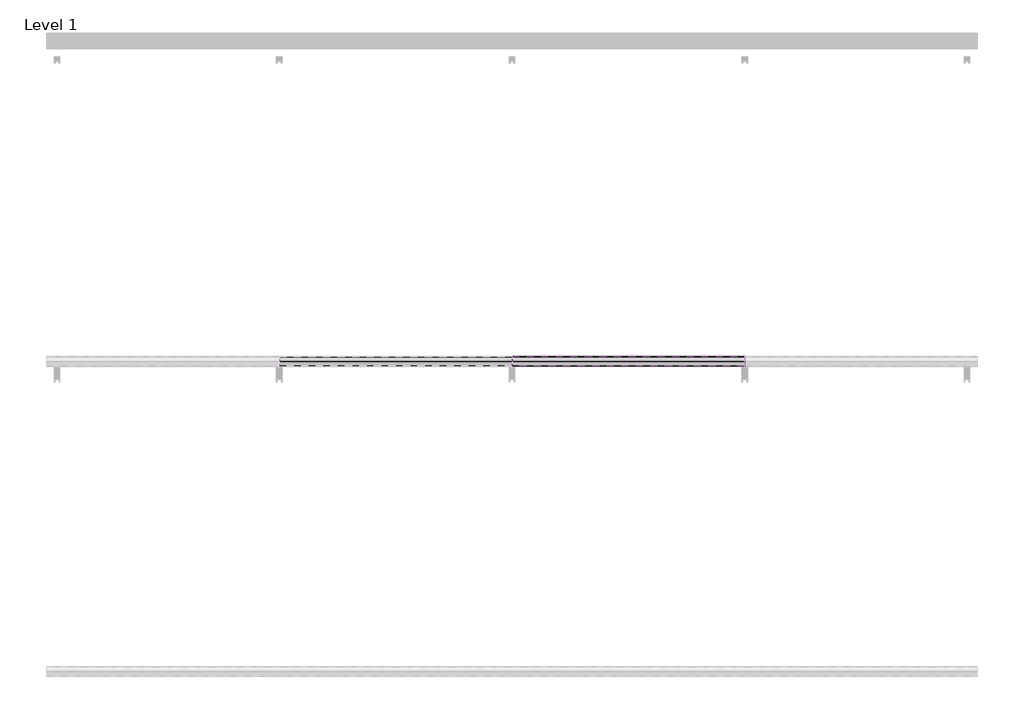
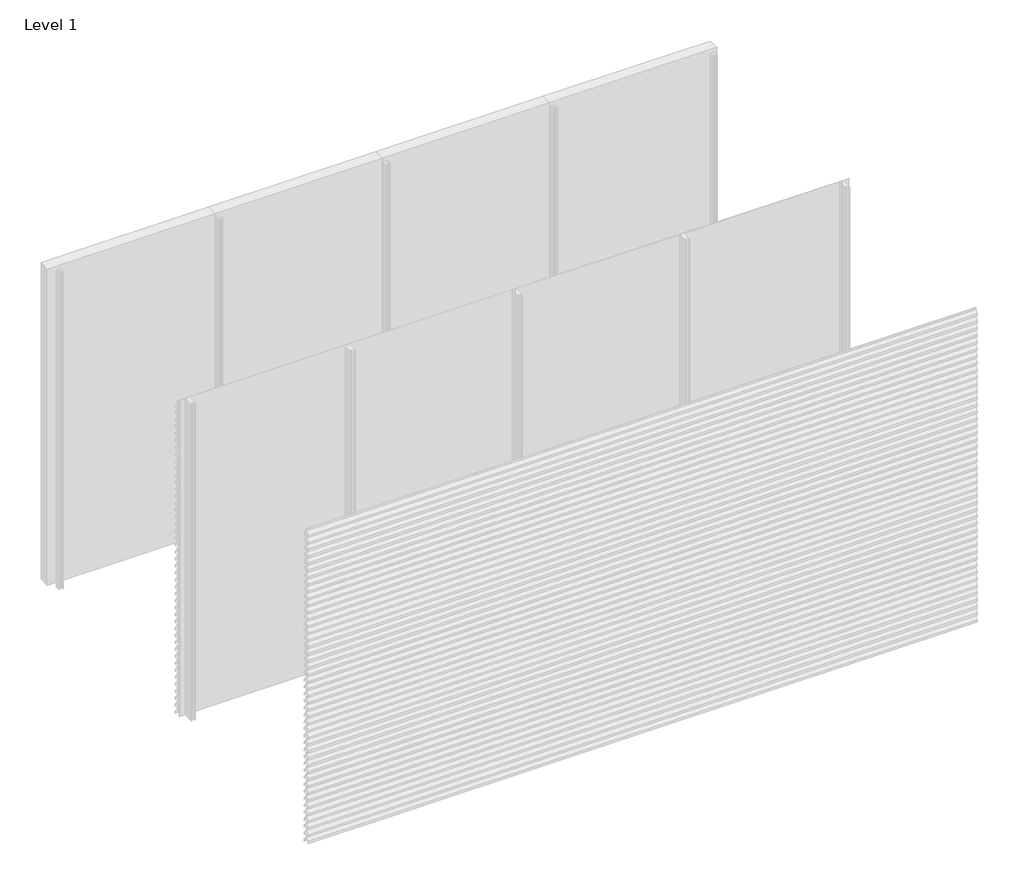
# One storey, part 24 of 35: 70 proxies.
"""IFC4 building model written with IfcOpenShell, lengths in millimetres."""

import ifcopenshell
import ifcopenshell.guid

model = None  # the IFC model being written
_history = None  # IfcOwnerHistory: only IFC2X3 demands one
_inside = {}  # id of a spatial element -> (the spatial element, [elements in it])
_under = {}  # id of a project, library or spatial element -> (it, [spatial elements below it])
_declared = {}  # id of a project -> (the project, [libraries it declares])
_typed = {}  # id of a type object -> (the type object, [elements of that type])
_made_of = {}  # id of a material, layer set ... -> (it, [elements and type objects made of it])


def new_model(schema):
    """Start an empty IFC model of exactly this schema.

    Asked for "IFC4X3", IfcOpenShell would pick the latest addendum, in which some entities
    have other attributes; the version numbers below select the first issue.
    IFC2X3 requires an IfcOwnerHistory on every rooted entity: one is made here for all.
    """
    global model, _history
    if schema == "IFC4X3":
        model = ifcopenshell.file(schema_version=(4, 3, 0, 0))
    else:
        model = ifcopenshell.file(schema=schema)
    _inside.clear()
    _under.clear()
    _declared.clear()
    _typed.clear()
    _made_of.clear()
    _history = None
    if model.schema == "IFC2X3":
        org = make("IfcOrganization", Name="unknown")
        user = make(
            "IfcPersonAndOrganization",
            ThePerson=make("IfcPerson", FamilyName="unknown"),
            TheOrganization=org,
        )
        app = make(
            "IfcApplication",
            ApplicationDeveloper=org,
            Version="unknown",
            ApplicationFullName="unknown",
            ApplicationIdentifier="unknown",
        )
        _history = make(
            "IfcOwnerHistory",
            OwningUser=user,
            OwningApplication=app,
            ChangeAction="ADDED",
            CreationDate=0,
        )
    return model


def make(cls, **values):
    """One entity of the class cls with the attributes given. An attribute that is None is left unset."""
    return model.create_entity(
        cls, **{name: value for name, value in values.items() if value is not None}
    )


def rooted(cls, **values):
    """An entity with a GlobalId (a new one), such as an element, a storey or a relation."""
    return make(cls, GlobalId=ifcopenshell.guid.new(), OwnerHistory=_history, **values)


def si_unit(unit_type, name, prefix=None):
    """IfcSIUnit, for example si_unit("LENGTHUNIT", "METRE", prefix="MILLI")."""
    return make("IfcSIUnit", UnitType=unit_type, Prefix=prefix, Name=name)


def assignment(units):
    """IfcUnitAssignment: the units of a project."""
    return None if units is None else make("IfcUnitAssignment", Units=units)


def point(xyz):
    """IfcCartesianPoint."""
    return None if xyz is None else make("IfcCartesianPoint", Coordinates=xyz)


def direction(xyz):
    """IfcDirection."""
    return None if xyz is None else make("IfcDirection", DirectionRatios=xyz)


def frame(location, z_axis=None, x_axis=None):
    """IfcAxis2Placement3D, a coordinate frame: its origin and axes. An axis left out is left unset."""
    return make(
        "IfcAxis2Placement3D",
        Location=point(location),
        Axis=direction(z_axis),
        RefDirection=direction(x_axis),
    )


def origin():
    """The frame at (0, 0, 0) with its axes left unset."""
    return frame((0.0, 0.0, 0.0))


def place(relative_to, where):
    """IfcLocalPlacement: puts the frame where relative to a parent placement (None: the world)."""
    return make(
        "IfcLocalPlacement", PlacementRelTo=relative_to, RelativePlacement=where
    )


def context(
    kind, dimensions, precision=None, world=None, true_north=None, identifier=None
):
    """IfcGeometricRepresentationContext, for example the 3D "Model" context."""
    return make(
        "IfcGeometricRepresentationContext",
        ContextIdentifier=identifier,
        ContextType=kind,
        CoordinateSpaceDimension=dimensions,
        Precision=precision,
        WorldCoordinateSystem=world,
        TrueNorth=true_north,
    )


def project(units=None, contexts=None):
    """IfcProject with its units and contexts."""
    return rooted(
        "IfcProject",
        Name="project",
        RepresentationContexts=contexts,
        UnitsInContext=assignment(units),
    )


def spatial(cls, under=None, at=None, **own):
    """A site, building, storey or space (cls), placed at a placement, below another one or the project."""
    s = rooted(cls, ObjectPlacement=at, **own)
    if under is not None:
        _under.setdefault(under.id(), (under, []))[1].append(s)
    return s


def polyline(points):
    """IfcPolyline through the points."""
    return make("IfcPolyline", Points=[point(p) for p in points])


def outline(outer, holes=None, kind="AREA"):
    """IfcArbitraryClosedProfileDef: a profile drawn as a closed curve; with holes, ...WithVoids."""
    if holes is None:
        return make("IfcArbitraryClosedProfileDef", ProfileType=kind, OuterCurve=outer)
    return make(
        "IfcArbitraryProfileDefWithVoids",
        ProfileType=kind,
        OuterCurve=outer,
        InnerCurves=holes,
    )


def extrude(swept, where, along, depth):
    """IfcExtrudedAreaSolid: the profile swept, set in the frame where, extruded along a direction by depth."""
    return make(
        "IfcExtrudedAreaSolid",
        SweptArea=swept,
        Position=where,
        ExtrudedDirection=direction(along),
        Depth=depth,
    )


def shape(context_of_items, identifier, shape_type, items):
    """IfcShapeRepresentation: the items that make up one representation, for example the "Body"."""
    return make(
        "IfcShapeRepresentation",
        ContextOfItems=context_of_items,
        RepresentationIdentifier=identifier,
        RepresentationType=shape_type,
        Items=items,
    )


def made_of(thing, what):
    """Note that an element or type object is made of a material, layer set ...; save() writes the relation."""
    if what is not None:
        _made_of.setdefault(what.id(), (what, []))[1].append(thing)
    return thing


def element(
    cls,
    number,
    at=None,
    inside=None,
    cuts=None,
    type_object=None,
    material=None,
    context=None,
    identifier="Body",
    shape_type=None,
    held_by="IfcProductDefinitionShape",
    body=None,
    shapes=None,
    **own,
):
    """One element of the class cls, such as IfcWall. Its Tag is "e" and its number.

    at: its placement. inside: the storey or other place that contains it. cuts: it is an
    opening in that element (IfcRelVoidsElement). A single representation is given by context,
    identifier, shape_type and body (its items); several are given by shapes. held_by: the class
    of the entity that holds the representations. save() writes the other relations.
    """
    e = rooted(cls, Tag="e%d" % number, ObjectPlacement=at, **own)
    if body is not None:
        shapes = [shape(context, identifier, shape_type, body)]
    if shapes is not None:
        e.Representation = make(held_by, Representations=shapes)
    if inside is not None:
        _inside.setdefault(inside.id(), (inside, []))[1].append(e)
    if cuts is not None:
        rooted(
            "IfcRelVoidsElement", RelatingBuildingElement=cuts, RelatedOpeningElement=e
        )
    if type_object is not None:
        _typed.setdefault(type_object.id(), (type_object, []))[1].append(e)
    return made_of(e, material)


def aggregate(whole, parts):
    """IfcRelAggregates: a whole, such as a stair, and the parts it consists of."""
    return rooted("IfcRelAggregates", RelatingObject=whole, RelatedObjects=parts)


def save(model, path):
    """Write the relations noted so far, then the file.

    IfcRelAggregates (storeys below a building ...), IfcRelContainedInSpatialStructure (elements
    in a storey), IfcRelDefinesByType, IfcRelAssociatesMaterial and IfcRelDeclares: one each for
    every whole, place, type object, material and project.
    """
    for whole, parts in _under.values():
        aggregate(whole, parts)
    for where, things in _inside.values():
        rooted(
            "IfcRelContainedInSpatialStructure",
            RelatedElements=things,
            RelatingStructure=where,
        )
    for kind, things in _typed.values():
        rooted("IfcRelDefinesByType", RelatedObjects=things, RelatingType=kind)
    for what, things in _made_of.values():
        rooted("IfcRelAssociatesMaterial", RelatedObjects=things, RelatingMaterial=what)
    for by, libraries in _declared.values():
        rooted("IfcRelDeclares", RelatingContext=by, RelatedDefinitions=libraries)
    model.write(path)


model = new_model("IFC4")

# Units and contexts
model_context = context("Model", 3, world=origin())
ifc_project = project(units=[si_unit("LENGTHUNIT", "METRE", prefix="MILLI")], contexts=[model_context])

# Site, building, storey
site = spatial("IfcSite", under=ifc_project)
building = spatial("IfcBuilding", under=site)
storey = spatial("IfcBuildingStorey", under=building, Name="Level 1", Elevation=0.0)

# Proxies
placement = place(None, origin())
element("IfcBuildingElementProxy", 1, Name="Wall Sweeps", at=placement, inside=storey, context=model_context, shape_type="SweptSolid", body=[
    extrude(outline(polyline([(-17936.0, 1134.0), (-17936.0, 1114.0), (-17937.25, 1114.0), (-17937.25, 1133.4342979), (-17968.1138939, 1166.531772), (-17996.7, 1146.4392868), (-17996.7, 1127.6629874), (-17998.0, 1126.8506572), (-17998.0, 1147.1145472), (-17968.537525, 1167.823011), (-17968.537525, 1188.0), (-17967.1772624, 1188.0), (-17967.1772624, 1167.4335207), (-17936.0, 1134.0)])), frame((1500.0, 0.0, 0.0), z_axis=(1.0, 0.0, 0.0), x_axis=(0.0, 1.0, 0.0)), (0.0, 0.0, 1.0), 1500.0),
])
element("IfcBuildingElementProxy", 2, Name="Wall Sweeps", at=placement, inside=storey, context=model_context, shape_type="SweptSolid", body=[
    extrude(outline(polyline([(-17936.0, 1068.0), (-17936.0, 1048.0), (-17937.25, 1048.0), (-17937.25, 1067.4342979), (-17968.1138939, 1100.531772), (-17996.7, 1080.4392868), (-17996.7, 1061.6629874), (-17998.0, 1060.8506572), (-17998.0, 1081.1145472), (-17968.537525, 1101.823011), (-17968.537525, 1122.0), (-17967.1772624, 1122.0), (-17967.1772624, 1101.4335207), (-17936.0, 1068.0)])), frame((1500.0, 0.0, 0.0), z_axis=(1.0, 0.0, 0.0), x_axis=(0.0, 1.0, 0.0)), (0.0, 0.0, 1.0), 1500.0),
])
element("IfcBuildingElementProxy", 3, Name="Wall Sweeps", at=placement, inside=storey, context=model_context, shape_type="SweptSolid", body=[
    extrude(outline(polyline([(-17936.0, 1002.0), (-17936.0, 982.0), (-17937.25, 982.0), (-17937.25, 1001.4342979), (-17968.1138939, 1034.531772), (-17996.7, 1014.4392868), (-17996.7, 995.6629874), (-17998.0, 994.8506572), (-17998.0, 1015.1145472), (-17968.537525, 1035.823011), (-17968.537525, 1056.0), (-17967.1772624, 1056.0), (-17967.1772624, 1035.4335207), (-17936.0, 1002.0)])), frame((1500.0, 0.0, 0.0), z_axis=(1.0, 0.0, 0.0), x_axis=(0.0, 1.0, 0.0)), (0.0, 0.0, 1.0), 1500.0),
])
element("IfcBuildingElementProxy", 4, Name="Wall Sweeps", at=placement, inside=storey, context=model_context, shape_type="SweptSolid", body=[
    extrude(outline(polyline([(-17936.0, 936.0), (-17936.0, 916.0), (-17937.25, 916.0), (-17937.25, 935.4342979), (-17968.1138939, 968.531772), (-17996.7, 948.4392868), (-17996.7, 929.6629874), (-17998.0, 928.8506572), (-17998.0, 949.1145472), (-17968.537525, 969.823011), (-17968.537525, 990.0), (-17967.1772624, 990.0), (-17967.1772624, 969.4335207), (-17936.0, 936.0)])), frame((1500.0, 0.0, 0.0), z_axis=(1.0, 0.0, 0.0), x_axis=(0.0, 1.0, 0.0)), (0.0, 0.0, 1.0), 1500.0),
])
element("IfcBuildingElementProxy", 5, Name="Wall Sweeps", at=placement, inside=storey, context=model_context, shape_type="SweptSolid", body=[
    extrude(outline(polyline([(-17936.0, 870.0), (-17936.0, 850.0), (-17937.25, 850.0), (-17937.25, 869.4342979), (-17968.1138939, 902.531772), (-17996.7, 882.4392868), (-17996.7, 863.6629874), (-17998.0, 862.8506572), (-17998.0, 883.1145472), (-17968.537525, 903.823011), (-17968.537525, 924.0), (-17967.1772624, 924.0), (-17967.1772624, 903.4335207), (-17936.0, 870.0)])), frame((1500.0, 0.0, 0.0), z_axis=(1.0, 0.0, 0.0), x_axis=(0.0, 1.0, 0.0)), (0.0, 0.0, 1.0), 1500.0),
])
element("IfcBuildingElementProxy", 6, Name="Wall Sweeps", at=placement, inside=storey, context=model_context, shape_type="SweptSolid", body=[
    extrude(outline(polyline([(-17936.0, 804.0), (-17936.0, 784.0), (-17937.25, 784.0), (-17937.25, 803.4342979), (-17968.1138939, 836.531772), (-17996.7, 816.4392868), (-17996.7, 797.6629874), (-17998.0, 796.8506572), (-17998.0, 817.1145472), (-17968.537525, 837.823011), (-17968.537525, 858.0), (-17967.1772624, 858.0), (-17967.1772624, 837.4335207), (-17936.0, 804.0)])), frame((1500.0, 0.0, 0.0), z_axis=(1.0, 0.0, 0.0), x_axis=(0.0, 1.0, 0.0)), (0.0, 0.0, 1.0), 1500.0),
])
element("IfcBuildingElementProxy", 7, Name="Wall Sweeps", at=placement, inside=storey, context=model_context, shape_type="SweptSolid", body=[
    extrude(outline(polyline([(-17936.0, 738.0), (-17936.0, 718.0), (-17937.25, 718.0), (-17937.25, 737.4342979), (-17968.1138939, 770.531772), (-17996.7, 750.4392868), (-17996.7, 731.6629874), (-17998.0, 730.8506572), (-17998.0, 751.1145472), (-17968.537525, 771.823011), (-17968.537525, 792.0), (-17967.1772624, 792.0), (-17967.1772624, 771.4335207), (-17936.0, 738.0)])), frame((1500.0, 0.0, 0.0), z_axis=(1.0, 0.0, 0.0), x_axis=(0.0, 1.0, 0.0)), (0.0, 0.0, 1.0), 1500.0),
])
element("IfcBuildingElementProxy", 8, Name="Wall Sweeps", at=placement, inside=storey, context=model_context, shape_type="SweptSolid", body=[
    extrude(outline(polyline([(-17936.0, 672.0), (-17936.0, 652.0), (-17937.25, 652.0), (-17937.25, 671.4342979), (-17968.1138939, 704.531772), (-17996.7, 684.4392868), (-17996.7, 665.6629874), (-17998.0, 664.8506572), (-17998.0, 685.1145472), (-17968.537525, 705.823011), (-17968.537525, 726.0), (-17967.1772624, 726.0), (-17967.1772624, 705.4335207), (-17936.0, 672.0)])), frame((1500.0, 0.0, 0.0), z_axis=(1.0, 0.0, 0.0), x_axis=(0.0, 1.0, 0.0)), (0.0, 0.0, 1.0), 1500.0),
])
element("IfcBuildingElementProxy", 9, Name="Wall Sweeps", at=placement, inside=storey, context=model_context, shape_type="SweptSolid", body=[
    extrude(outline(polyline([(-17936.0, 606.0), (-17936.0, 586.0), (-17937.25, 586.0), (-17937.25, 605.4342979), (-17968.1138939, 638.531772), (-17996.7, 618.4392868), (-17996.7, 599.6629874), (-17998.0, 598.8506572), (-17998.0, 619.1145472), (-17968.537525, 639.823011), (-17968.537525, 660.0), (-17967.1772624, 660.0), (-17967.1772624, 639.4335207), (-17936.0, 606.0)])), frame((1500.0, 0.0, 0.0), z_axis=(1.0, 0.0, 0.0), x_axis=(0.0, 1.0, 0.0)), (0.0, 0.0, 1.0), 1500.0),
])
element("IfcBuildingElementProxy", 10, Name="Wall Sweeps", at=placement, inside=storey, context=model_context, shape_type="SweptSolid", body=[
    extrude(outline(polyline([(-17936.0, 540.0), (-17936.0, 520.0), (-17937.25, 520.0), (-17937.25, 539.4342979), (-17968.1138939, 572.531772), (-17996.7, 552.4392868), (-17996.7, 533.6629874), (-17998.0, 532.8506572), (-17998.0, 553.1145472), (-17968.537525, 573.823011), (-17968.537525, 594.0), (-17967.1772624, 594.0), (-17967.1772624, 573.4335207), (-17936.0, 540.0)])), frame((1500.0, 0.0, 0.0), z_axis=(1.0, 0.0, 0.0), x_axis=(0.0, 1.0, 0.0)), (0.0, 0.0, 1.0), 1500.0),
])
element("IfcBuildingElementProxy", 11, Name="Wall Sweeps", at=placement, inside=storey, context=model_context, shape_type="SweptSolid", body=[
    extrude(outline(polyline([(-17936.0, 474.0), (-17936.0, 454.0), (-17937.25, 454.0), (-17937.25, 473.4342979), (-17968.1138939, 506.531772), (-17996.7, 486.4392868), (-17996.7, 467.6629874), (-17998.0, 466.8506572), (-17998.0, 487.1145472), (-17968.537525, 507.823011), (-17968.537525, 528.0), (-17967.1772624, 528.0), (-17967.1772624, 507.4335207), (-17936.0, 474.0)])), frame((1500.0, 0.0, 0.0), z_axis=(1.0, 0.0, 0.0), x_axis=(0.0, 1.0, 0.0)), (0.0, 0.0, 1.0), 1500.0),
])
element("IfcBuildingElementProxy", 12, Name="Wall Sweeps", at=placement, inside=storey, context=model_context, shape_type="SweptSolid", body=[
    extrude(outline(polyline([(-17936.0, 408.0), (-17936.0, 388.0), (-17937.25, 388.0), (-17937.25, 407.4342979), (-17968.1138939, 440.531772), (-17996.7, 420.4392868), (-17996.7, 401.6629874), (-17998.0, 400.8506572), (-17998.0, 421.1145472), (-17968.537525, 441.823011), (-17968.537525, 462.0), (-17967.1772624, 462.0), (-17967.1772624, 441.4335207), (-17936.0, 408.0)])), frame((1500.0, 0.0, 0.0), z_axis=(1.0, 0.0, 0.0), x_axis=(0.0, 1.0, 0.0)), (0.0, 0.0, 1.0), 1500.0),
])
element("IfcBuildingElementProxy", 13, Name="Wall Sweeps", at=placement, inside=storey, context=model_context, shape_type="SweptSolid", body=[
    extrude(outline(polyline([(-17936.0, 342.0), (-17936.0, 322.0), (-17937.25, 322.0), (-17937.25, 341.4342979), (-17968.1138939, 374.531772), (-17996.7, 354.4392868), (-17996.7, 335.6629874), (-17998.0, 334.8506572), (-17998.0, 355.1145472), (-17968.537525, 375.823011), (-17968.537525, 396.0), (-17967.1772624, 396.0), (-17967.1772624, 375.4335207), (-17936.0, 342.0)])), frame((1500.0, 0.0, 0.0), z_axis=(1.0, 0.0, 0.0), x_axis=(0.0, 1.0, 0.0)), (0.0, 0.0, 1.0), 1500.0),
])
element("IfcBuildingElementProxy", 14, Name="Wall Sweeps", at=placement, inside=storey, context=model_context, shape_type="SweptSolid", body=[
    extrude(outline(polyline([(-17936.0, 276.0), (-17936.0, 256.0), (-17937.25, 256.0), (-17937.25, 275.4342979), (-17968.1138939, 308.531772), (-17996.7, 288.4392868), (-17996.7, 269.6629874), (-17998.0, 268.8506572), (-17998.0, 289.1145472), (-17968.537525, 309.823011), (-17968.537525, 330.0), (-17967.1772624, 330.0), (-17967.1772624, 309.4335207), (-17936.0, 276.0)])), frame((1500.0, 0.0, 0.0), z_axis=(1.0, 0.0, 0.0), x_axis=(0.0, 1.0, 0.0)), (0.0, 0.0, 1.0), 1500.0),
])
element("IfcBuildingElementProxy", 15, Name="Wall Sweeps", at=placement, inside=storey, context=model_context, shape_type="SweptSolid", body=[
    extrude(outline(polyline([(-17936.0, 210.0), (-17936.0, 190.0), (-17937.25, 190.0), (-17937.25, 209.4342979), (-17968.1138939, 242.531772), (-17996.7, 222.4392868), (-17996.7, 203.6629874), (-17998.0, 202.8506572), (-17998.0, 223.1145472), (-17968.537525, 243.823011), (-17968.537525, 264.0), (-17967.1772624, 264.0), (-17967.1772624, 243.4335207), (-17936.0, 210.0)])), frame((1500.0, 0.0, 0.0), z_axis=(1.0, 0.0, 0.0), x_axis=(0.0, 1.0, 0.0)), (0.0, 0.0, 1.0), 1500.0),
])
element("IfcBuildingElementProxy", 16, Name="Wall Sweeps", at=placement, inside=storey, context=model_context, shape_type="SweptSolid", body=[
    extrude(outline(polyline([(-17936.0, 144.0), (-17936.0, 124.0), (-17937.25, 124.0), (-17937.25, 143.4342979), (-17968.1138939, 176.531772), (-17996.7, 156.4392868), (-17996.7, 137.6629874), (-17998.0, 136.8506572), (-17998.0, 157.1145472), (-17968.537525, 177.823011), (-17968.537525, 198.0), (-17967.1772624, 198.0), (-17967.1772624, 177.4335207), (-17936.0, 144.0)])), frame((1500.0, 0.0, 0.0), z_axis=(1.0, 0.0, 0.0), x_axis=(0.0, 1.0, 0.0)), (0.0, 0.0, 1.0), 1500.0),
])
element("IfcBuildingElementProxy", 17, Name="Wall Sweeps", at=placement, inside=storey, context=model_context, shape_type="SweptSolid", body=[
    extrude(outline(polyline([(-17936.0, 78.0), (-17936.0, 58.0), (-17937.25, 58.0), (-17937.25, 77.4342979), (-17968.1138939, 110.531772), (-17996.7, 90.4392868), (-17996.7, 71.6629874), (-17998.0, 70.8506572), (-17998.0, 91.1145472), (-17968.537525, 111.823011), (-17968.537525, 132.0), (-17967.1772624, 132.0), (-17967.1772624, 111.4335207), (-17936.0, 78.0)])), frame((1500.0, 0.0, 0.0), z_axis=(1.0, 0.0, 0.0), x_axis=(0.0, 1.0, 0.0)), (0.0, 0.0, 1.0), 1500.0),
])
element("IfcBuildingElementProxy", 18, Name="Wall Sweeps", at=placement, inside=storey, context=model_context, shape_type="SweptSolid", body=[
    extrude(outline(polyline([(-17936.0, 12.0), (-17936.0, -8.0), (-17937.25, -8.0), (-17937.25, 11.4342979), (-17968.1138939, 44.531772), (-17996.7, 24.4392868), (-17996.7, 5.6629874), (-17998.0, 4.8506572), (-17998.0, 25.1145472), (-17968.537525, 45.823011), (-17968.537525, 66.0), (-17967.1772624, 66.0), (-17967.1772624, 45.4335207), (-17936.0, 12.0)])), frame((1500.0, 0.0, 0.0), z_axis=(1.0, 0.0, 0.0), x_axis=(0.0, 1.0, 0.0)), (0.0, 0.0, 1.0), 1500.0),
])
element("IfcBuildingElementProxy", 19, Name="Wall Sweeps", at=placement, inside=storey, context=model_context, shape_type="SweptSolid", body=[
    extrude(outline(polyline([(-17936.0, 2916.0), (-17936.0, 2896.0), (-17937.25, 2896.0), (-17937.25, 2915.4342979), (-17968.1138939, 2948.531772), (-17996.7, 2928.4392868), (-17996.7, 2909.6629874), (-17998.0, 2908.8506572), (-17998.0, 2929.1145472), (-17968.537525, 2949.823011), (-17968.537525, 2970.0), (-17967.1772624, 2970.0), (-17967.1772624, 2949.4335207), (-17936.0, 2916.0)])), frame((3000.0, 0.0, 0.0), z_axis=(1.0, 0.0, 0.0), x_axis=(0.0, 1.0, 0.0)), (0.0, 0.0, 1.0), 1500.0),
])
element("IfcBuildingElementProxy", 20, Name="Wall Sweeps", at=placement, inside=storey, context=model_context, shape_type="SweptSolid", body=[
    extrude(outline(polyline([(-17936.0, 2850.0), (-17936.0, 2830.0), (-17937.25, 2830.0), (-17937.25, 2849.4342979), (-17968.1138939, 2882.531772), (-17996.7, 2862.4392868), (-17996.7, 2843.6629874), (-17998.0, 2842.8506572), (-17998.0, 2863.1145472), (-17968.537525, 2883.823011), (-17968.537525, 2904.0), (-17967.1772624, 2904.0), (-17967.1772624, 2883.4335207), (-17936.0, 2850.0)])), frame((3000.0, 0.0, 0.0), z_axis=(1.0, 0.0, 0.0), x_axis=(0.0, 1.0, 0.0)), (0.0, 0.0, 1.0), 1500.0),
])
element("IfcBuildingElementProxy", 21, Name="Wall Sweeps", at=placement, inside=storey, context=model_context, shape_type="SweptSolid", body=[
    extrude(outline(polyline([(-17936.0, 2784.0), (-17936.0, 2764.0), (-17937.25, 2764.0), (-17937.25, 2783.4342979), (-17968.1138939, 2816.531772), (-17996.7, 2796.4392868), (-17996.7, 2777.6629874), (-17998.0, 2776.8506572), (-17998.0, 2797.1145472), (-17968.537525, 2817.823011), (-17968.537525, 2838.0), (-17967.1772624, 2838.0), (-17967.1772624, 2817.4335207), (-17936.0, 2784.0)])), frame((3000.0, 0.0, 0.0), z_axis=(1.0, 0.0, 0.0), x_axis=(0.0, 1.0, 0.0)), (0.0, 0.0, 1.0), 1500.0),
])
element("IfcBuildingElementProxy", 22, Name="Wall Sweeps", at=placement, inside=storey, context=model_context, shape_type="SweptSolid", body=[
    extrude(outline(polyline([(-17936.0, 2718.0), (-17936.0, 2698.0), (-17937.25, 2698.0), (-17937.25, 2717.4342979), (-17968.1138939, 2750.531772), (-17996.7, 2730.4392868), (-17996.7, 2711.6629874), (-17998.0, 2710.8506572), (-17998.0, 2731.1145472), (-17968.537525, 2751.823011), (-17968.537525, 2772.0), (-17967.1772624, 2772.0), (-17967.1772624, 2751.4335207), (-17936.0, 2718.0)])), frame((3000.0, 0.0, 0.0), z_axis=(1.0, 0.0, 0.0), x_axis=(0.0, 1.0, 0.0)), (0.0, 0.0, 1.0), 1500.0),
])
element("IfcBuildingElementProxy", 23, Name="Wall Sweeps", at=placement, inside=storey, context=model_context, shape_type="SweptSolid", body=[
    extrude(outline(polyline([(-17936.0, 2652.0), (-17936.0, 2632.0), (-17937.25, 2632.0), (-17937.25, 2651.4342979), (-17968.1138939, 2684.531772), (-17996.7, 2664.4392868), (-17996.7, 2645.6629874), (-17998.0, 2644.8506572), (-17998.0, 2665.1145472), (-17968.537525, 2685.823011), (-17968.537525, 2706.0), (-17967.1772624, 2706.0), (-17967.1772624, 2685.4335207), (-17936.0, 2652.0)])), frame((3000.0, 0.0, 0.0), z_axis=(1.0, 0.0, 0.0), x_axis=(0.0, 1.0, 0.0)), (0.0, 0.0, 1.0), 1500.0),
])
element("IfcBuildingElementProxy", 24, Name="Wall Sweeps", at=placement, inside=storey, context=model_context, shape_type="SweptSolid", body=[
    extrude(outline(polyline([(-17936.0, 2586.0), (-17936.0, 2566.0), (-17937.25, 2566.0), (-17937.25, 2585.4342979), (-17968.1138939, 2618.531772), (-17996.7, 2598.4392868), (-17996.7, 2579.6629874), (-17998.0, 2578.8506572), (-17998.0, 2599.1145472), (-17968.537525, 2619.823011), (-17968.537525, 2640.0), (-17967.1772624, 2640.0), (-17967.1772624, 2619.4335207), (-17936.0, 2586.0)])), frame((3000.0, 0.0, 0.0), z_axis=(1.0, 0.0, 0.0), x_axis=(0.0, 1.0, 0.0)), (0.0, 0.0, 1.0), 1500.0),
])
element("IfcBuildingElementProxy", 25, Name="Wall Sweeps", at=placement, inside=storey, context=model_context, shape_type="SweptSolid", body=[
    extrude(outline(polyline([(-17936.0, 2520.0), (-17936.0, 2500.0), (-17937.25, 2500.0), (-17937.25, 2519.4342979), (-17968.1138939, 2552.531772), (-17996.7, 2532.4392868), (-17996.7, 2513.6629874), (-17998.0, 2512.8506572), (-17998.0, 2533.1145472), (-17968.537525, 2553.823011), (-17968.537525, 2574.0), (-17967.1772624, 2574.0), (-17967.1772624, 2553.4335207), (-17936.0, 2520.0)])), frame((3000.0, 0.0, 0.0), z_axis=(1.0, 0.0, 0.0), x_axis=(0.0, 1.0, 0.0)), (0.0, 0.0, 1.0), 1500.0),
])
element("IfcBuildingElementProxy", 26, Name="Wall Sweeps", at=placement, inside=storey, context=model_context, shape_type="SweptSolid", body=[
    extrude(outline(polyline([(-17936.0, 2454.0), (-17936.0, 2434.0), (-17937.25, 2434.0), (-17937.25, 2453.4342979), (-17968.1138939, 2486.531772), (-17996.7, 2466.4392868), (-17996.7, 2447.6629874), (-17998.0, 2446.8506572), (-17998.0, 2467.1145472), (-17968.537525, 2487.823011), (-17968.537525, 2508.0), (-17967.1772624, 2508.0), (-17967.1772624, 2487.4335207), (-17936.0, 2454.0)])), frame((3000.0, 0.0, 0.0), z_axis=(1.0, 0.0, 0.0), x_axis=(0.0, 1.0, 0.0)), (0.0, 0.0, 1.0), 1500.0),
])
element("IfcBuildingElementProxy", 27, Name="Wall Sweeps", at=placement, inside=storey, context=model_context, shape_type="SweptSolid", body=[
    extrude(outline(polyline([(-17936.0, 2388.0), (-17936.0, 2368.0), (-17937.25, 2368.0), (-17937.25, 2387.4342979), (-17968.1138939, 2420.531772), (-17996.7, 2400.4392868), (-17996.7, 2381.6629874), (-17998.0, 2380.8506572), (-17998.0, 2401.1145472), (-17968.537525, 2421.823011), (-17968.537525, 2442.0), (-17967.1772624, 2442.0), (-17967.1772624, 2421.4335207), (-17936.0, 2388.0)])), frame((3000.0, 0.0, 0.0), z_axis=(1.0, 0.0, 0.0), x_axis=(0.0, 1.0, 0.0)), (0.0, 0.0, 1.0), 1500.0),
])
element("IfcBuildingElementProxy", 28, Name="Wall Sweeps", at=placement, inside=storey, context=model_context, shape_type="SweptSolid", body=[
    extrude(outline(polyline([(-17936.0, 2322.0), (-17936.0, 2302.0), (-17937.25, 2302.0), (-17937.25, 2321.4342979), (-17968.1138939, 2354.531772), (-17996.7, 2334.4392868), (-17996.7, 2315.6629874), (-17998.0, 2314.8506572), (-17998.0, 2335.1145472), (-17968.537525, 2355.823011), (-17968.537525, 2376.0), (-17967.1772624, 2376.0), (-17967.1772624, 2355.4335207), (-17936.0, 2322.0)])), frame((3000.0, 0.0, 0.0), z_axis=(1.0, 0.0, 0.0), x_axis=(0.0, 1.0, 0.0)), (0.0, 0.0, 1.0), 1500.0),
])
element("IfcBuildingElementProxy", 29, Name="Wall Sweeps", at=placement, inside=storey, context=model_context, shape_type="SweptSolid", body=[
    extrude(outline(polyline([(-17936.0, 2256.0), (-17936.0, 2236.0), (-17937.25, 2236.0), (-17937.25, 2255.4342979), (-17968.1138939, 2288.531772), (-17996.7, 2268.4392868), (-17996.7, 2249.6629874), (-17998.0, 2248.8506572), (-17998.0, 2269.1145472), (-17968.537525, 2289.823011), (-17968.537525, 2310.0), (-17967.1772624, 2310.0), (-17967.1772624, 2289.4335207), (-17936.0, 2256.0)])), frame((3000.0, 0.0, 0.0), z_axis=(1.0, 0.0, 0.0), x_axis=(0.0, 1.0, 0.0)), (0.0, 0.0, 1.0), 1500.0),
])
element("IfcBuildingElementProxy", 30, Name="Wall Sweeps", at=placement, inside=storey, context=model_context, shape_type="SweptSolid", body=[
    extrude(outline(polyline([(-17936.0, 2190.0), (-17936.0, 2170.0), (-17937.25, 2170.0), (-17937.25, 2189.4342979), (-17968.1138939, 2222.531772), (-17996.7, 2202.4392868), (-17996.7, 2183.6629874), (-17998.0, 2182.8506572), (-17998.0, 2203.1145472), (-17968.537525, 2223.823011), (-17968.537525, 2244.0), (-17967.1772624, 2244.0), (-17967.1772624, 2223.4335207), (-17936.0, 2190.0)])), frame((3000.0, 0.0, 0.0), z_axis=(1.0, 0.0, 0.0), x_axis=(0.0, 1.0, 0.0)), (0.0, 0.0, 1.0), 1500.0),
])
element("IfcBuildingElementProxy", 31, Name="Wall Sweeps", at=placement, inside=storey, context=model_context, shape_type="SweptSolid", body=[
    extrude(outline(polyline([(-17936.0, 2124.0), (-17936.0, 2104.0), (-17937.25, 2104.0), (-17937.25, 2123.4342979), (-17968.1138939, 2156.531772), (-17996.7, 2136.4392868), (-17996.7, 2117.6629874), (-17998.0, 2116.8506572), (-17998.0, 2137.1145472), (-17968.537525, 2157.823011), (-17968.537525, 2178.0), (-17967.1772624, 2178.0), (-17967.1772624, 2157.4335207), (-17936.0, 2124.0)])), frame((3000.0, 0.0, 0.0), z_axis=(1.0, 0.0, 0.0), x_axis=(0.0, 1.0, 0.0)), (0.0, 0.0, 1.0), 1500.0),
])
element("IfcBuildingElementProxy", 32, Name="Wall Sweeps", at=placement, inside=storey, context=model_context, shape_type="SweptSolid", body=[
    extrude(outline(polyline([(-17936.0, 2058.0), (-17936.0, 2038.0), (-17937.25, 2038.0), (-17937.25, 2057.4342979), (-17968.1138939, 2090.531772), (-17996.7, 2070.4392868), (-17996.7, 2051.6629874), (-17998.0, 2050.8506572), (-17998.0, 2071.1145472), (-17968.537525, 2091.823011), (-17968.537525, 2112.0), (-17967.1772624, 2112.0), (-17967.1772624, 2091.4335207), (-17936.0, 2058.0)])), frame((3000.0, 0.0, 0.0), z_axis=(1.0, 0.0, 0.0), x_axis=(0.0, 1.0, 0.0)), (0.0, 0.0, 1.0), 1500.0),
])
element("IfcBuildingElementProxy", 33, Name="Wall Sweeps", at=placement, inside=storey, context=model_context, shape_type="SweptSolid", body=[
    extrude(outline(polyline([(-17936.0, 1992.0), (-17936.0, 1972.0), (-17937.25, 1972.0), (-17937.25, 1991.4342979), (-17968.1138939, 2024.531772), (-17996.7, 2004.4392868), (-17996.7, 1985.6629874), (-17998.0, 1984.8506572), (-17998.0, 2005.1145472), (-17968.537525, 2025.823011), (-17968.537525, 2046.0), (-17967.1772624, 2046.0), (-17967.1772624, 2025.4335207), (-17936.0, 1992.0)])), frame((3000.0, 0.0, 0.0), z_axis=(1.0, 0.0, 0.0), x_axis=(0.0, 1.0, 0.0)), (0.0, 0.0, 1.0), 1500.0),
])
element("IfcBuildingElementProxy", 34, Name="Wall Sweeps", at=placement, inside=storey, context=model_context, shape_type="SweptSolid", body=[
    extrude(outline(polyline([(-17936.0, 1926.0), (-17936.0, 1906.0), (-17937.25, 1906.0), (-17937.25, 1925.4342979), (-17968.1138939, 1958.531772), (-17996.7, 1938.4392868), (-17996.7, 1919.6629874), (-17998.0, 1918.8506572), (-17998.0, 1939.1145472), (-17968.537525, 1959.823011), (-17968.537525, 1980.0), (-17967.1772624, 1980.0), (-17967.1772624, 1959.4335207), (-17936.0, 1926.0)])), frame((3000.0, 0.0, 0.0), z_axis=(1.0, 0.0, 0.0), x_axis=(0.0, 1.0, 0.0)), (0.0, 0.0, 1.0), 1500.0),
])
element("IfcBuildingElementProxy", 35, Name="Wall Sweeps", at=placement, inside=storey, context=model_context, shape_type="SweptSolid", body=[
    extrude(outline(polyline([(-17936.0, 1860.0), (-17936.0, 1840.0), (-17937.25, 1840.0), (-17937.25, 1859.4342979), (-17968.1138939, 1892.531772), (-17996.7, 1872.4392868), (-17996.7, 1853.6629874), (-17998.0, 1852.8506572), (-17998.0, 1873.1145472), (-17968.537525, 1893.823011), (-17968.537525, 1914.0), (-17967.1772624, 1914.0), (-17967.1772624, 1893.4335207), (-17936.0, 1860.0)])), frame((3000.0, 0.0, 0.0), z_axis=(1.0, 0.0, 0.0), x_axis=(0.0, 1.0, 0.0)), (0.0, 0.0, 1.0), 1500.0),
])
element("IfcBuildingElementProxy", 36, Name="Wall Sweeps", at=placement, inside=storey, context=model_context, shape_type="SweptSolid", body=[
    extrude(outline(polyline([(-17936.0, 1794.0), (-17936.0, 1774.0), (-17937.25, 1774.0), (-17937.25, 1793.4342979), (-17968.1138939, 1826.531772), (-17996.7, 1806.4392868), (-17996.7, 1787.6629874), (-17998.0, 1786.8506572), (-17998.0, 1807.1145472), (-17968.537525, 1827.823011), (-17968.537525, 1848.0), (-17967.1772624, 1848.0), (-17967.1772624, 1827.4335207), (-17936.0, 1794.0)])), frame((3000.0, 0.0, 0.0), z_axis=(1.0, 0.0, 0.0), x_axis=(0.0, 1.0, 0.0)), (0.0, 0.0, 1.0), 1500.0),
])
element("IfcBuildingElementProxy", 37, Name="Wall Sweeps", at=placement, inside=storey, context=model_context, shape_type="SweptSolid", body=[
    extrude(outline(polyline([(-17936.0, 1728.0), (-17936.0, 1708.0), (-17937.25, 1708.0), (-17937.25, 1727.4342979), (-17968.1138939, 1760.531772), (-17996.7, 1740.4392868), (-17996.7, 1721.6629874), (-17998.0, 1720.8506572), (-17998.0, 1741.1145472), (-17968.537525, 1761.823011), (-17968.537525, 1782.0), (-17967.1772624, 1782.0), (-17967.1772624, 1761.4335207), (-17936.0, 1728.0)])), frame((3000.0, 0.0, 0.0), z_axis=(1.0, 0.0, 0.0), x_axis=(0.0, 1.0, 0.0)), (0.0, 0.0, 1.0), 1500.0),
])
element("IfcBuildingElementProxy", 38, Name="Wall Sweeps", at=placement, inside=storey, context=model_context, shape_type="SweptSolid", body=[
    extrude(outline(polyline([(-17936.0, 1662.0), (-17936.0, 1642.0), (-17937.25, 1642.0), (-17937.25, 1661.4342979), (-17968.1138939, 1694.531772), (-17996.7, 1674.4392868), (-17996.7, 1655.6629874), (-17998.0, 1654.8506572), (-17998.0, 1675.1145472), (-17968.537525, 1695.823011), (-17968.537525, 1716.0), (-17967.1772624, 1716.0), (-17967.1772624, 1695.4335207), (-17936.0, 1662.0)])), frame((3000.0, 0.0, 0.0), z_axis=(1.0, 0.0, 0.0), x_axis=(0.0, 1.0, 0.0)), (0.0, 0.0, 1.0), 1500.0),
])
element("IfcBuildingElementProxy", 39, Name="Wall Sweeps", at=placement, inside=storey, context=model_context, shape_type="SweptSolid", body=[
    extrude(outline(polyline([(-17936.0, 1596.0), (-17936.0, 1576.0), (-17937.25, 1576.0), (-17937.25, 1595.4342979), (-17968.1138939, 1628.531772), (-17996.7, 1608.4392868), (-17996.7, 1589.6629874), (-17998.0, 1588.8506572), (-17998.0, 1609.1145472), (-17968.537525, 1629.823011), (-17968.537525, 1650.0), (-17967.1772624, 1650.0), (-17967.1772624, 1629.4335207), (-17936.0, 1596.0)])), frame((3000.0, 0.0, 0.0), z_axis=(1.0, 0.0, 0.0), x_axis=(0.0, 1.0, 0.0)), (0.0, 0.0, 1.0), 1500.0),
])
element("IfcBuildingElementProxy", 40, Name="Wall Sweeps", at=placement, inside=storey, context=model_context, shape_type="SweptSolid", body=[
    extrude(outline(polyline([(-17936.0, 1530.0), (-17936.0, 1510.0), (-17937.25, 1510.0), (-17937.25, 1529.4342979), (-17968.1138939, 1562.531772), (-17996.7, 1542.4392868), (-17996.7, 1523.6629874), (-17998.0, 1522.8506572), (-17998.0, 1543.1145472), (-17968.537525, 1563.823011), (-17968.537525, 1584.0), (-17967.1772624, 1584.0), (-17967.1772624, 1563.4335207), (-17936.0, 1530.0)])), frame((3000.0, 0.0, 0.0), z_axis=(1.0, 0.0, 0.0), x_axis=(0.0, 1.0, 0.0)), (0.0, 0.0, 1.0), 1500.0),
])
element("IfcBuildingElementProxy", 41, Name="Wall Sweeps", at=placement, inside=storey, context=model_context, shape_type="SweptSolid", body=[
    extrude(outline(polyline([(-17936.0, 1464.0), (-17936.0, 1444.0), (-17937.25, 1444.0), (-17937.25, 1463.4342979), (-17968.1138939, 1496.531772), (-17996.7, 1476.4392868), (-17996.7, 1457.6629874), (-17998.0, 1456.8506572), (-17998.0, 1477.1145472), (-17968.537525, 1497.823011), (-17968.537525, 1518.0), (-17967.1772624, 1518.0), (-17967.1772624, 1497.4335207), (-17936.0, 1464.0)])), frame((3000.0, 0.0, 0.0), z_axis=(1.0, 0.0, 0.0), x_axis=(0.0, 1.0, 0.0)), (0.0, 0.0, 1.0), 1500.0),
])
element("IfcBuildingElementProxy", 42, Name="Wall Sweeps", at=placement, inside=storey, context=model_context, shape_type="SweptSolid", body=[
    extrude(outline(polyline([(-17936.0, 1398.0), (-17936.0, 1378.0), (-17937.25, 1378.0), (-17937.25, 1397.4342979), (-17968.1138939, 1430.531772), (-17996.7, 1410.4392868), (-17996.7, 1391.6629874), (-17998.0, 1390.8506572), (-17998.0, 1411.1145472), (-17968.537525, 1431.823011), (-17968.537525, 1452.0), (-17967.1772624, 1452.0), (-17967.1772624, 1431.4335207), (-17936.0, 1398.0)])), frame((3000.0, 0.0, 0.0), z_axis=(1.0, 0.0, 0.0), x_axis=(0.0, 1.0, 0.0)), (0.0, 0.0, 1.0), 1500.0),
])
element("IfcBuildingElementProxy", 43, Name="Wall Sweeps", at=placement, inside=storey, context=model_context, shape_type="SweptSolid", body=[
    extrude(outline(polyline([(-17936.0, 1332.0), (-17936.0, 1312.0), (-17937.25, 1312.0), (-17937.25, 1331.4342979), (-17968.1138939, 1364.531772), (-17996.7, 1344.4392868), (-17996.7, 1325.6629874), (-17998.0, 1324.8506572), (-17998.0, 1345.1145472), (-17968.537525, 1365.823011), (-17968.537525, 1386.0), (-17967.1772624, 1386.0), (-17967.1772624, 1365.4335207), (-17936.0, 1332.0)])), frame((3000.0, 0.0, 0.0), z_axis=(1.0, 0.0, 0.0), x_axis=(0.0, 1.0, 0.0)), (0.0, 0.0, 1.0), 1500.0),
])
element("IfcBuildingElementProxy", 44, Name="Wall Sweeps", at=placement, inside=storey, context=model_context, shape_type="SweptSolid", body=[
    extrude(outline(polyline([(-17936.0, 1266.0), (-17936.0, 1246.0), (-17937.25, 1246.0), (-17937.25, 1265.4342979), (-17968.1138939, 1298.531772), (-17996.7, 1278.4392868), (-17996.7, 1259.6629874), (-17998.0, 1258.8506572), (-17998.0, 1279.1145472), (-17968.537525, 1299.823011), (-17968.537525, 1320.0), (-17967.1772624, 1320.0), (-17967.1772624, 1299.4335207), (-17936.0, 1266.0)])), frame((3000.0, 0.0, 0.0), z_axis=(1.0, 0.0, 0.0), x_axis=(0.0, 1.0, 0.0)), (0.0, 0.0, 1.0), 1500.0),
])
element("IfcBuildingElementProxy", 45, Name="Wall Sweeps", at=placement, inside=storey, context=model_context, shape_type="SweptSolid", body=[
    extrude(outline(polyline([(-17936.0, 1200.0), (-17936.0, 1180.0), (-17937.25, 1180.0), (-17937.25, 1199.4342979), (-17968.1138939, 1232.531772), (-17996.7, 1212.4392868), (-17996.7, 1193.6629874), (-17998.0, 1192.8506572), (-17998.0, 1213.1145472), (-17968.537525, 1233.823011), (-17968.537525, 1254.0), (-17967.1772624, 1254.0), (-17967.1772624, 1233.4335207), (-17936.0, 1200.0)])), frame((3000.0, 0.0, 0.0), z_axis=(1.0, 0.0, 0.0), x_axis=(0.0, 1.0, 0.0)), (0.0, 0.0, 1.0), 1500.0),
])
element("IfcBuildingElementProxy", 46, Name="Wall Sweeps", at=placement, inside=storey, context=model_context, shape_type="SweptSolid", body=[
    extrude(outline(polyline([(-17936.0, 1134.0), (-17936.0, 1114.0), (-17937.25, 1114.0), (-17937.25, 1133.4342979), (-17968.1138939, 1166.531772), (-17996.7, 1146.4392868), (-17996.7, 1127.6629874), (-17998.0, 1126.8506572), (-17998.0, 1147.1145472), (-17968.537525, 1167.823011), (-17968.537525, 1188.0), (-17967.1772624, 1188.0), (-17967.1772624, 1167.4335207), (-17936.0, 1134.0)])), frame((3000.0, 0.0, 0.0), z_axis=(1.0, 0.0, 0.0), x_axis=(0.0, 1.0, 0.0)), (0.0, 0.0, 1.0), 1500.0),
])
element("IfcBuildingElementProxy", 47, Name="Wall Sweeps", at=placement, inside=storey, context=model_context, shape_type="SweptSolid", body=[
    extrude(outline(polyline([(-17936.0, 1068.0), (-17936.0, 1048.0), (-17937.25, 1048.0), (-17937.25, 1067.4342979), (-17968.1138939, 1100.531772), (-17996.7, 1080.4392868), (-17996.7, 1061.6629874), (-17998.0, 1060.8506572), (-17998.0, 1081.1145472), (-17968.537525, 1101.823011), (-17968.537525, 1122.0), (-17967.1772624, 1122.0), (-17967.1772624, 1101.4335207), (-17936.0, 1068.0)])), frame((3000.0, 0.0, 0.0), z_axis=(1.0, 0.0, 0.0), x_axis=(0.0, 1.0, 0.0)), (0.0, 0.0, 1.0), 1500.0),
])
element("IfcBuildingElementProxy", 48, Name="Wall Sweeps", at=placement, inside=storey, context=model_context, shape_type="SweptSolid", body=[
    extrude(outline(polyline([(-17936.0, 1002.0), (-17936.0, 982.0), (-17937.25, 982.0), (-17937.25, 1001.4342979), (-17968.1138939, 1034.531772), (-17996.7, 1014.4392868), (-17996.7, 995.6629874), (-17998.0, 994.8506572), (-17998.0, 1015.1145472), (-17968.537525, 1035.823011), (-17968.537525, 1056.0), (-17967.1772624, 1056.0), (-17967.1772624, 1035.4335207), (-17936.0, 1002.0)])), frame((3000.0, 0.0, 0.0), z_axis=(1.0, 0.0, 0.0), x_axis=(0.0, 1.0, 0.0)), (0.0, 0.0, 1.0), 1500.0),
])
element("IfcBuildingElementProxy", 49, Name="Wall Sweeps", at=placement, inside=storey, context=model_context, shape_type="SweptSolid", body=[
    extrude(outline(polyline([(-17936.0, 936.0), (-17936.0, 916.0), (-17937.25, 916.0), (-17937.25, 935.4342979), (-17968.1138939, 968.531772), (-17996.7, 948.4392868), (-17996.7, 929.6629874), (-17998.0, 928.8506572), (-17998.0, 949.1145472), (-17968.537525, 969.823011), (-17968.537525, 990.0), (-17967.1772624, 990.0), (-17967.1772624, 969.4335207), (-17936.0, 936.0)])), frame((3000.0, 0.0, 0.0), z_axis=(1.0, 0.0, 0.0), x_axis=(0.0, 1.0, 0.0)), (0.0, 0.0, 1.0), 1500.0),
])
element("IfcBuildingElementProxy", 50, Name="Wall Sweeps", at=placement, inside=storey, context=model_context, shape_type="SweptSolid", body=[
    extrude(outline(polyline([(-17936.0, 870.0), (-17936.0, 850.0), (-17937.25, 850.0), (-17937.25, 869.4342979), (-17968.1138939, 902.531772), (-17996.7, 882.4392868), (-17996.7, 863.6629874), (-17998.0, 862.8506572), (-17998.0, 883.1145472), (-17968.537525, 903.823011), (-17968.537525, 924.0), (-17967.1772624, 924.0), (-17967.1772624, 903.4335207), (-17936.0, 870.0)])), frame((3000.0, 0.0, 0.0), z_axis=(1.0, 0.0, 0.0), x_axis=(0.0, 1.0, 0.0)), (0.0, 0.0, 1.0), 1500.0),
])
element("IfcBuildingElementProxy", 51, Name="Wall Sweeps", at=placement, inside=storey, context=model_context, shape_type="SweptSolid", body=[
    extrude(outline(polyline([(-17936.0, 804.0), (-17936.0, 784.0), (-17937.25, 784.0), (-17937.25, 803.4342979), (-17968.1138939, 836.531772), (-17996.7, 816.4392868), (-17996.7, 797.6629874), (-17998.0, 796.8506572), (-17998.0, 817.1145472), (-17968.537525, 837.823011), (-17968.537525, 858.0), (-17967.1772624, 858.0), (-17967.1772624, 837.4335207), (-17936.0, 804.0)])), frame((3000.0, 0.0, 0.0), z_axis=(1.0, 0.0, 0.0), x_axis=(0.0, 1.0, 0.0)), (0.0, 0.0, 1.0), 1500.0),
])
element("IfcBuildingElementProxy", 52, Name="Wall Sweeps", at=placement, inside=storey, context=model_context, shape_type="SweptSolid", body=[
    extrude(outline(polyline([(-17936.0, 738.0), (-17936.0, 718.0), (-17937.25, 718.0), (-17937.25, 737.4342979), (-17968.1138939, 770.531772), (-17996.7, 750.4392868), (-17996.7, 731.6629874), (-17998.0, 730.8506572), (-17998.0, 751.1145472), (-17968.537525, 771.823011), (-17968.537525, 792.0), (-17967.1772624, 792.0), (-17967.1772624, 771.4335207), (-17936.0, 738.0)])), frame((3000.0, 0.0, 0.0), z_axis=(1.0, 0.0, 0.0), x_axis=(0.0, 1.0, 0.0)), (0.0, 0.0, 1.0), 1500.0),
])
element("IfcBuildingElementProxy", 53, Name="Wall Sweeps", at=placement, inside=storey, context=model_context, shape_type="SweptSolid", body=[
    extrude(outline(polyline([(-17936.0, 672.0), (-17936.0, 652.0), (-17937.25, 652.0), (-17937.25, 671.4342979), (-17968.1138939, 704.531772), (-17996.7, 684.4392868), (-17996.7, 665.6629874), (-17998.0, 664.8506572), (-17998.0, 685.1145472), (-17968.537525, 705.823011), (-17968.537525, 726.0), (-17967.1772624, 726.0), (-17967.1772624, 705.4335207), (-17936.0, 672.0)])), frame((3000.0, 0.0, 0.0), z_axis=(1.0, 0.0, 0.0), x_axis=(0.0, 1.0, 0.0)), (0.0, 0.0, 1.0), 1500.0),
])
element("IfcBuildingElementProxy", 54, Name="Wall Sweeps", at=placement, inside=storey, context=model_context, shape_type="SweptSolid", body=[
    extrude(outline(polyline([(-17936.0, 606.0), (-17936.0, 586.0), (-17937.25, 586.0), (-17937.25, 605.4342979), (-17968.1138939, 638.531772), (-17996.7, 618.4392868), (-17996.7, 599.6629874), (-17998.0, 598.8506572), (-17998.0, 619.1145472), (-17968.537525, 639.823011), (-17968.537525, 660.0), (-17967.1772624, 660.0), (-17967.1772624, 639.4335207), (-17936.0, 606.0)])), frame((3000.0, 0.0, 0.0), z_axis=(1.0, 0.0, 0.0), x_axis=(0.0, 1.0, 0.0)), (0.0, 0.0, 1.0), 1500.0),
])
element("IfcBuildingElementProxy", 55, Name="Wall Sweeps", at=placement, inside=storey, context=model_context, shape_type="SweptSolid", body=[
    extrude(outline(polyline([(-17936.0, 540.0), (-17936.0, 520.0), (-17937.25, 520.0), (-17937.25, 539.4342979), (-17968.1138939, 572.531772), (-17996.7, 552.4392868), (-17996.7, 533.6629874), (-17998.0, 532.8506572), (-17998.0, 553.1145472), (-17968.537525, 573.823011), (-17968.537525, 594.0), (-17967.1772624, 594.0), (-17967.1772624, 573.4335207), (-17936.0, 540.0)])), frame((3000.0, 0.0, 0.0), z_axis=(1.0, 0.0, 0.0), x_axis=(0.0, 1.0, 0.0)), (0.0, 0.0, 1.0), 1500.0),
])
element("IfcBuildingElementProxy", 56, Name="Wall Sweeps", at=placement, inside=storey, context=model_context, shape_type="SweptSolid", body=[
    extrude(outline(polyline([(-17936.0, 474.0), (-17936.0, 454.0), (-17937.25, 454.0), (-17937.25, 473.4342979), (-17968.1138939, 506.531772), (-17996.7, 486.4392868), (-17996.7, 467.6629874), (-17998.0, 466.8506572), (-17998.0, 487.1145472), (-17968.537525, 507.823011), (-17968.537525, 528.0), (-17967.1772624, 528.0), (-17967.1772624, 507.4335207), (-17936.0, 474.0)])), frame((3000.0, 0.0, 0.0), z_axis=(1.0, 0.0, 0.0), x_axis=(0.0, 1.0, 0.0)), (0.0, 0.0, 1.0), 1500.0),
])
element("IfcBuildingElementProxy", 57, Name="Wall Sweeps", at=placement, inside=storey, context=model_context, shape_type="SweptSolid", body=[
    extrude(outline(polyline([(-17936.0, 408.0), (-17936.0, 388.0), (-17937.25, 388.0), (-17937.25, 407.4342979), (-17968.1138939, 440.531772), (-17996.7, 420.4392868), (-17996.7, 401.6629874), (-17998.0, 400.8506572), (-17998.0, 421.1145472), (-17968.537525, 441.823011), (-17968.537525, 462.0), (-17967.1772624, 462.0), (-17967.1772624, 441.4335207), (-17936.0, 408.0)])), frame((3000.0, 0.0, 0.0), z_axis=(1.0, 0.0, 0.0), x_axis=(0.0, 1.0, 0.0)), (0.0, 0.0, 1.0), 1500.0),
])
element("IfcBuildingElementProxy", 58, Name="Wall Sweeps", at=placement, inside=storey, context=model_context, shape_type="SweptSolid", body=[
    extrude(outline(polyline([(-17936.0, 342.0), (-17936.0, 322.0), (-17937.25, 322.0), (-17937.25, 341.4342979), (-17968.1138939, 374.531772), (-17996.7, 354.4392868), (-17996.7, 335.6629874), (-17998.0, 334.8506572), (-17998.0, 355.1145472), (-17968.537525, 375.823011), (-17968.537525, 396.0), (-17967.1772624, 396.0), (-17967.1772624, 375.4335207), (-17936.0, 342.0)])), frame((3000.0, 0.0, 0.0), z_axis=(1.0, 0.0, 0.0), x_axis=(0.0, 1.0, 0.0)), (0.0, 0.0, 1.0), 1500.0),
])
element("IfcBuildingElementProxy", 59, Name="Wall Sweeps", at=placement, inside=storey, context=model_context, shape_type="SweptSolid", body=[
    extrude(outline(polyline([(-17936.0, 276.0), (-17936.0, 256.0), (-17937.25, 256.0), (-17937.25, 275.4342979), (-17968.1138939, 308.531772), (-17996.7, 288.4392868), (-17996.7, 269.6629874), (-17998.0, 268.8506572), (-17998.0, 289.1145472), (-17968.537525, 309.823011), (-17968.537525, 330.0), (-17967.1772624, 330.0), (-17967.1772624, 309.4335207), (-17936.0, 276.0)])), frame((3000.0, 0.0, 0.0), z_axis=(1.0, 0.0, 0.0), x_axis=(0.0, 1.0, 0.0)), (0.0, 0.0, 1.0), 1500.0),
])
element("IfcBuildingElementProxy", 60, Name="Wall Sweeps", at=placement, inside=storey, context=model_context, shape_type="SweptSolid", body=[
    extrude(outline(polyline([(-17936.0, 210.0), (-17936.0, 190.0), (-17937.25, 190.0), (-17937.25, 209.4342979), (-17968.1138939, 242.531772), (-17996.7, 222.4392868), (-17996.7, 203.6629874), (-17998.0, 202.8506572), (-17998.0, 223.1145472), (-17968.537525, 243.823011), (-17968.537525, 264.0), (-17967.1772624, 264.0), (-17967.1772624, 243.4335207), (-17936.0, 210.0)])), frame((3000.0, 0.0, 0.0), z_axis=(1.0, 0.0, 0.0), x_axis=(0.0, 1.0, 0.0)), (0.0, 0.0, 1.0), 1500.0),
])
element("IfcBuildingElementProxy", 61, Name="Wall Sweeps", at=placement, inside=storey, context=model_context, shape_type="SweptSolid", body=[
    extrude(outline(polyline([(-17936.0, 144.0), (-17936.0, 124.0), (-17937.25, 124.0), (-17937.25, 143.4342979), (-17968.1138939, 176.531772), (-17996.7, 156.4392868), (-17996.7, 137.6629874), (-17998.0, 136.8506572), (-17998.0, 157.1145472), (-17968.537525, 177.823011), (-17968.537525, 198.0), (-17967.1772624, 198.0), (-17967.1772624, 177.4335207), (-17936.0, 144.0)])), frame((3000.0, 0.0, 0.0), z_axis=(1.0, 0.0, 0.0), x_axis=(0.0, 1.0, 0.0)), (0.0, 0.0, 1.0), 1500.0),
])
element("IfcBuildingElementProxy", 62, Name="Wall Sweeps", at=placement, inside=storey, context=model_context, shape_type="SweptSolid", body=[
    extrude(outline(polyline([(-17936.0, 78.0), (-17936.0, 58.0), (-17937.25, 58.0), (-17937.25, 77.4342979), (-17968.1138939, 110.531772), (-17996.7, 90.4392868), (-17996.7, 71.6629874), (-17998.0, 70.8506572), (-17998.0, 91.1145472), (-17968.537525, 111.823011), (-17968.537525, 132.0), (-17967.1772624, 132.0), (-17967.1772624, 111.4335207), (-17936.0, 78.0)])), frame((3000.0, 0.0, 0.0), z_axis=(1.0, 0.0, 0.0), x_axis=(0.0, 1.0, 0.0)), (0.0, 0.0, 1.0), 1500.0),
])
element("IfcBuildingElementProxy", 63, Name="Wall Sweeps", at=placement, inside=storey, context=model_context, shape_type="SweptSolid", body=[
    extrude(outline(polyline([(-17936.0, 12.0), (-17936.0, -8.0), (-17937.25, -8.0), (-17937.25, 11.4342979), (-17968.1138939, 44.531772), (-17996.7, 24.4392868), (-17996.7, 5.6629874), (-17998.0, 4.8506572), (-17998.0, 25.1145472), (-17968.537525, 45.823011), (-17968.537525, 66.0), (-17967.1772624, 66.0), (-17967.1772624, 45.4335207), (-17936.0, 12.0)])), frame((3000.0, 0.0, 0.0), z_axis=(1.0, 0.0, 0.0), x_axis=(0.0, 1.0, 0.0)), (0.0, 0.0, 1.0), 1500.0),
])
element("IfcBuildingElementProxy", 64, Name="Wall Sweeps", at=placement, inside=storey, context=model_context, shape_type="SweptSolid", body=[
    extrude(outline(polyline([(-17936.0, 2916.0), (-17936.0, 2896.0), (-17937.25, 2896.0), (-17937.25, 2915.4342979), (-17968.1138939, 2948.531772), (-17996.7, 2928.4392868), (-17996.7, 2909.6629874), (-17998.0, 2908.8506572), (-17998.0, 2929.1145472), (-17968.537525, 2949.823011), (-17968.537525, 2970.0), (-17967.1772624, 2970.0), (-17967.1772624, 2949.4335207), (-17936.0, 2916.0)])), frame((4500.0, 0.0, 0.0), z_axis=(1.0, 0.0, 0.0), x_axis=(0.0, 1.0, 0.0)), (0.0, 0.0, 1.0), 1500.0),
])
element("IfcBuildingElementProxy", 65, Name="Wall Sweeps", at=placement, inside=storey, context=model_context, shape_type="SweptSolid", body=[
    extrude(outline(polyline([(-17936.0, 2850.0), (-17936.0, 2830.0), (-17937.25, 2830.0), (-17937.25, 2849.4342979), (-17968.1138939, 2882.531772), (-17996.7, 2862.4392868), (-17996.7, 2843.6629874), (-17998.0, 2842.8506572), (-17998.0, 2863.1145472), (-17968.537525, 2883.823011), (-17968.537525, 2904.0), (-17967.1772624, 2904.0), (-17967.1772624, 2883.4335207), (-17936.0, 2850.0)])), frame((4500.0, 0.0, 0.0), z_axis=(1.0, 0.0, 0.0), x_axis=(0.0, 1.0, 0.0)), (0.0, 0.0, 1.0), 1500.0),
])
element("IfcBuildingElementProxy", 66, Name="Wall Sweeps", at=placement, inside=storey, context=model_context, shape_type="SweptSolid", body=[
    extrude(outline(polyline([(-17936.0, 2784.0), (-17936.0, 2764.0), (-17937.25, 2764.0), (-17937.25, 2783.4342979), (-17968.1138939, 2816.531772), (-17996.7, 2796.4392868), (-17996.7, 2777.6629874), (-17998.0, 2776.8506572), (-17998.0, 2797.1145472), (-17968.537525, 2817.823011), (-17968.537525, 2838.0), (-17967.1772624, 2838.0), (-17967.1772624, 2817.4335207), (-17936.0, 2784.0)])), frame((4500.0, 0.0, 0.0), z_axis=(1.0, 0.0, 0.0), x_axis=(0.0, 1.0, 0.0)), (0.0, 0.0, 1.0), 1500.0),
])
element("IfcBuildingElementProxy", 67, Name="Wall Sweeps", at=placement, inside=storey, context=model_context, shape_type="SweptSolid", body=[
    extrude(outline(polyline([(-17936.0, 2718.0), (-17936.0, 2698.0), (-17937.25, 2698.0), (-17937.25, 2717.4342979), (-17968.1138939, 2750.531772), (-17996.7, 2730.4392868), (-17996.7, 2711.6629874), (-17998.0, 2710.8506572), (-17998.0, 2731.1145472), (-17968.537525, 2751.823011), (-17968.537525, 2772.0), (-17967.1772624, 2772.0), (-17967.1772624, 2751.4335207), (-17936.0, 2718.0)])), frame((4500.0, 0.0, 0.0), z_axis=(1.0, 0.0, 0.0), x_axis=(0.0, 1.0, 0.0)), (0.0, 0.0, 1.0), 1500.0),
])
element("IfcBuildingElementProxy", 68, Name="Wall Sweeps", at=placement, inside=storey, context=model_context, shape_type="SweptSolid", body=[
    extrude(outline(polyline([(-17936.0, 2652.0), (-17936.0, 2632.0), (-17937.25, 2632.0), (-17937.25, 2651.4342979), (-17968.1138939, 2684.531772), (-17996.7, 2664.4392868), (-17996.7, 2645.6629874), (-17998.0, 2644.8506572), (-17998.0, 2665.1145472), (-17968.537525, 2685.823011), (-17968.537525, 2706.0), (-17967.1772624, 2706.0), (-17967.1772624, 2685.4335207), (-17936.0, 2652.0)])), frame((4500.0, 0.0, 0.0), z_axis=(1.0, 0.0, 0.0), x_axis=(0.0, 1.0, 0.0)), (0.0, 0.0, 1.0), 1500.0),
])
element("IfcBuildingElementProxy", 69, Name="Wall Sweeps", at=placement, inside=storey, context=model_context, shape_type="SweptSolid", body=[
    extrude(outline(polyline([(-17936.0, 2586.0), (-17936.0, 2566.0), (-17937.25, 2566.0), (-17937.25, 2585.4342979), (-17968.1138939, 2618.531772), (-17996.7, 2598.4392868), (-17996.7, 2579.6629874), (-17998.0, 2578.8506572), (-17998.0, 2599.1145472), (-17968.537525, 2619.823011), (-17968.537525, 2640.0), (-17967.1772624, 2640.0), (-17967.1772624, 2619.4335207), (-17936.0, 2586.0)])), frame((4500.0, 0.0, 0.0), z_axis=(1.0, 0.0, 0.0), x_axis=(0.0, 1.0, 0.0)), (0.0, 0.0, 1.0), 1500.0),
])
element("IfcBuildingElementProxy", 70, Name="Wall Sweeps", at=placement, inside=storey, context=model_context, shape_type="SweptSolid", body=[
    extrude(outline(polyline([(-17936.0, 2520.0), (-17936.0, 2500.0), (-17937.25, 2500.0), (-17937.25, 2519.4342979), (-17968.1138939, 2552.531772), (-17996.7, 2532.4392868), (-17996.7, 2513.6629874), (-17998.0, 2512.8506572), (-17998.0, 2533.1145472), (-17968.537525, 2553.823011), (-17968.537525, 2574.0), (-17967.1772624, 2574.0), (-17967.1772624, 2553.4335207), (-17936.0, 2520.0)])), frame((4500.0, 0.0, 0.0), z_axis=(1.0, 0.0, 0.0), x_axis=(0.0, 1.0, 0.0)), (0.0, 0.0, 1.0), 1500.0),
])

save(model, "model.ifc")
